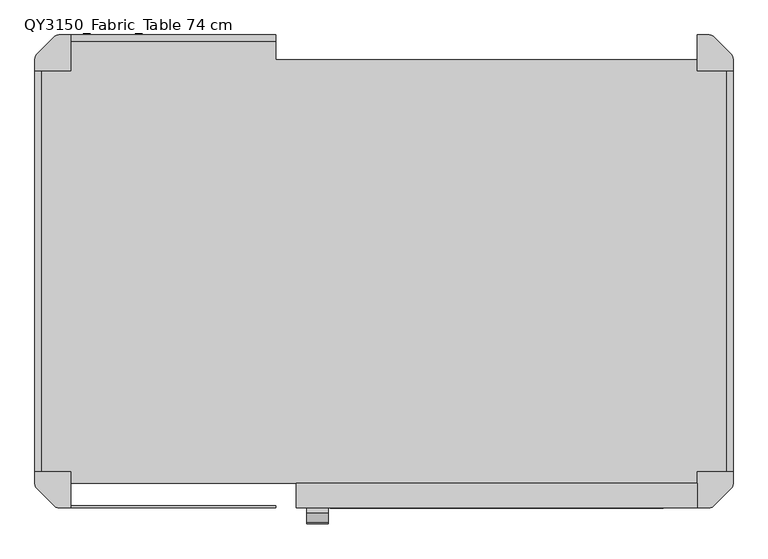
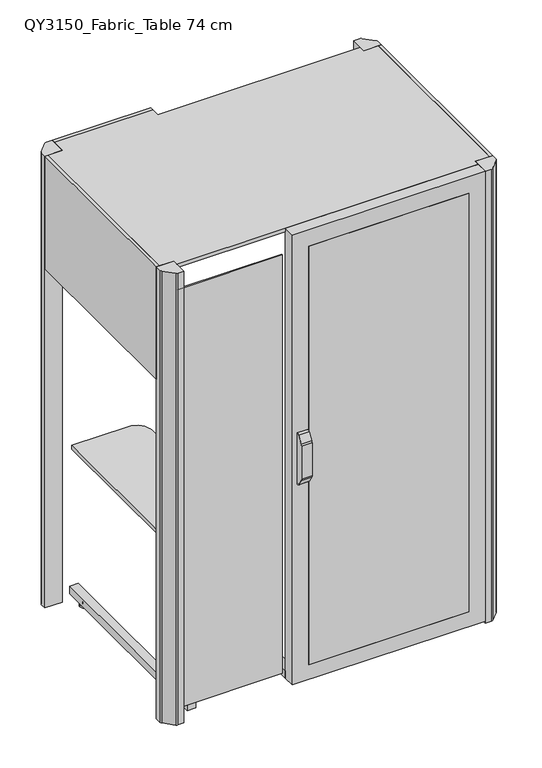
"""IFC4 building model written with IfcOpenShell, lengths in millimetres: furniture geometry, Qyos_150 : QY3150_Fabric_Table 74 cm."""

from ifc_helpers import new_model, si_unit, point, frame, frame_2d, origin, origin_with_axes, place, context, project, spatial, polyline, circle_curve, trimmed, segment, composite_curve, outline, extrude, source, transform, mapped, element, save
from ifc_brep_helpers import plane_surface, cylinder_surface, revolved_surface, advanced_brep


def qy3150_fabric_table_74_cm_6e834712(model_context):
    return source(origin(), model_context, "Body", "SolidModel", [
        extrude(outline(composite_curve([segment(polyline([(-701.0, -358.0), (-701.0, 358.0), (-441.0, 358.0)]), True, "CONTINUOUS"), segment(trimmed(circle_curve(frame_2d((-441.0, 288.0)), 70.0), [point((-441.0, 358.0))], [point((-371.0, 288.0))], False, "CARTESIAN"), True, "CONTINUOUS"), segment(polyline([(-371.0, 288.0), (-371.0, -288.0)]), True, "CONTINUOUS"), segment(trimmed(circle_curve(frame_2d((-441.0, -288.0)), 70.0), [point((-371.0, -288.0))], [point((-441.0, -358.0))], False, "CARTESIAN"), True, "CONTINUOUS"), segment(polyline([(-441.0, -358.0), (-701.0, -358.0)]), True, "CONTINUOUS")], self_intersect=False)), frame((0.0, 0.0, 800.0), z_axis=(0.0, 0.0, 1.0), x_axis=(1.0, 0.0, 0.0)), (0.0, 0.0, 1.0), 19.0),
        advanced_brep(
        [(-124.0102042, -525.6314016, 980.9779398), (-124.0102042, -525.6314016, 985.9647191), (-124.0102042, -537.9469969, 991.7354618), (-124.0102042, -555.0438473, 1019.0961419), (-124.0102042, -557.6320377, 1028.7554001), (-124.0102042, -557.6320377, 1173.7554001), (-124.0102042, -553.2020658, 1196.5456299), (-124.0102042, -536.4262787, 1221.4167571), (-124.0102042, -525.6314016, 1224.0702851), (-124.0102042, -525.6314016, 1230.9669096), (-124.0102042, -537.162848, 1226.3079029), (-124.0102042, -557.7819627, 1194.5572505), (-124.0102042, -560.5, 1186.1919919), (-124.0102042, -560.5, 1025.2), (-124.0102042, -557.5610872, 1017.1254034), (-124.0102042, -537.1968679, 985.7672556), (-171.9580619, -525.6314016, 1230.9669096), (-171.9580619, -525.6314016, 980.9779398), (-171.9580619, -537.1968679, 985.7672556), (-171.9580619, -557.5610872, 1017.1254034), (-171.9580619, -560.5, 1025.2), (-171.9580619, -560.5, 1186.1919919), (-171.9580619, -557.7819627, 1194.5572505), (-171.9580619, -537.162848, 1226.3079029), (-169.2887865, -525.6314016, 1224.0702851), (-169.2887865, -525.6314016, 985.9647191), (-169.2887865, -537.9469969, 991.7354618), (-169.2887865, -536.4262787, 1221.4167571), (-169.2887865, -553.2020658, 1196.5456299), (-169.2887865, -557.6320377, 1173.7554001), (-169.2887865, -557.6320377, 1028.7554001), (-169.2887865, -555.0438473, 1019.0961419)],
        [
            (0, 1),
            (1, 2, circle_curve(frame((-124.0102042, -525.4805644, 1002.3136249), z_axis=(-1.0, 0.0, 0.0), x_axis=(0.0, -1.0, 0.0)), 16.3496016)),
            (2, 3, circle_curve(frame((-124.0102042, 1120.4570487, 2047.0433119), z_axis=(-1.0, 0.0, 0.0), x_axis=(0.0, -1.0, 0.0)), 1965.7005461)),
            (3, 4, circle_curve(frame((-124.0102042, -540.0644692, 1028.286235), z_axis=(-1.0, 0.0, 0.0), x_axis=(0.0, -1.0, 0.0)), 17.5738323)),
            (4, 5),
            (5, 6, circle_curve(frame((-124.0102042, -496.7942676, 1173.7554001), z_axis=(-1.0, 0.0, 0.0), x_axis=(0.0, -1.0, 0.0)), 60.8377701)),
            (6, 7, circle_curve(frame((-124.0102042, -812.3576761, 1389.4415655), z_axis=(1.0, 0.0, 0.0), x_axis=(0.0, -1.0, 0.0)), 323.0641922)),
            (7, 8, circle_curve(frame((-124.0102042, -525.6314016, 1200.7860796), z_axis=(-1.0, 0.0, 0.0), x_axis=(0.0, -1.0, 0.0)), 23.2842055)),
            (8, 9),
            (9, 10, circle_curve(frame((-124.0102042, -527.4087289, 1218.7657801), z_axis=(1.0, 0.0, 0.0), x_axis=(0.0, -1.0, 0.0)), 12.3299009)),
            (10, 11, circle_curve(frame((-124.0102042, 71.0762231, 808.7424006), z_axis=(1.0, 0.0, 0.0), x_axis=(0.0, -1.0, 0.0)), 737.777552)),
            (11, 12, circle_curve(frame((-124.0102042, -541.7589098, 1184.7268438), z_axis=(1.0, 0.0, 0.0), x_axis=(0.0, -1.0, 0.0)), 18.7982744)),
            (12, 13),
            (13, 14, circle_curve(frame((-124.0102042, -513.525418, 1037.7252129), z_axis=(1.0, 0.0, 0.0), x_axis=(0.0, -1.0, 0.0)), 48.615762)),
            (14, 15, circle_curve(frame((-124.0102042, -160.5394908, 1252.6628295), z_axis=(1.0, 0.0, 0.0), x_axis=(0.0, -1.0, 0.0)), 461.6319174)),
            (15, 0, circle_curve(frame((-124.0102042, -527.6091735, 992.560998), z_axis=(1.0, 0.0, 0.0), x_axis=(0.0, -1.0, 0.0)), 11.7506945)),
            (16, 17),
            (17, 18, circle_curve(frame((-171.9580619, -527.6091735, 992.560998), z_axis=(-1.0, 0.0, 0.0), x_axis=(0.0, -1.0, 0.0)), 11.7506945)),
            (18, 19, circle_curve(frame((-171.9580619, -160.5394908, 1252.6628295), z_axis=(-1.0, 0.0, 0.0), x_axis=(0.0, -1.0, 0.0)), 461.6319174)),
            (19, 20, circle_curve(frame((-171.9580619, -513.525418, 1037.7252129), z_axis=(-1.0, 0.0, 0.0), x_axis=(0.0, -1.0, 0.0)), 48.615762)),
            (20, 21),
            (21, 22, circle_curve(frame((-171.9580619, -541.7589098, 1184.7268438), z_axis=(-1.0, 0.0, 0.0), x_axis=(0.0, -1.0, 0.0)), 18.7982744)),
            (22, 23, circle_curve(frame((-171.9580619, 71.0762231, 808.7424006), z_axis=(-1.0, 0.0, 0.0), x_axis=(0.0, -1.0, 0.0)), 737.777552)),
            (23, 16, circle_curve(frame((-171.9580619, -527.4087289, 1218.7657801), z_axis=(-1.0, 0.0, 0.0), x_axis=(0.0, -1.0, 0.0)), 12.3299009)),
            (16, 9),
            (8, 24),
            (24, 25),
            (25, 1),
            (0, 17),
            (15, 18),
            (14, 19),
            (13, 20),
            (12, 21),
            (11, 22),
            (10, 23),
            (26, 25, circle_curve(frame((-169.2887865, -525.4805644, 1002.3136249), z_axis=(1.0, 0.0, 0.0), x_axis=(0.0, -1.0, 0.0)), 16.3496016)),
            (24, 27, circle_curve(frame((-169.2887865, -525.6314016, 1200.7860796), z_axis=(1.0, 0.0, 0.0), x_axis=(0.0, -1.0, 0.0)), 23.2842055)),
            (27, 28, circle_curve(frame((-169.2887865, -812.3576761, 1389.4415655), z_axis=(-1.0, 0.0, 0.0), x_axis=(0.0, -1.0, 0.0)), 323.0641922)),
            (28, 29, circle_curve(frame((-169.2887865, -496.7942676, 1173.7554001), z_axis=(1.0, 0.0, 0.0), x_axis=(0.0, -1.0, 0.0)), 60.8377701)),
            (29, 30),
            (30, 31, circle_curve(frame((-169.2887865, -540.0644692, 1028.286235), z_axis=(1.0, 0.0, 0.0), x_axis=(0.0, -1.0, 0.0)), 17.5738323)),
            (31, 26, circle_curve(frame((-169.2887865, 1120.4570487, 2047.0433119), z_axis=(1.0, 0.0, 0.0), x_axis=(0.0, -1.0, 0.0)), 1965.7005461)),
            (26, 2),
            (31, 3),
            (30, 4),
            (29, 5),
            (28, 6),
            (27, 7),
        ],
        [
            plane_surface(frame((-124.0102042, -525.6314016, 980.9779398), z_axis=(1.0, 0.0, 0.0), x_axis=(0.0, 0.0, -1.0))),
            plane_surface(frame((-171.9580619, -525.6314016, 980.9779398), z_axis=(-1.0, 0.0, 0.0), x_axis=(0.0, 0.0, 1.0))),
            plane_surface(frame((-124.0102042, -525.6314016, 1230.9669096), z_axis=(0.0, 1.0, 0.0), x_axis=(-1.0, 0.0, 0.0))),
            cylinder_surface(frame((-171.9580619, -527.6091735, 992.560998), z_axis=(1.0, 0.0, 0.0), x_axis=(0.0, -1.0, 0.0)), 11.7506945),
            cylinder_surface(frame((-171.9580619, -160.5394908, 1252.6628295), z_axis=(1.0, 0.0, 0.0), x_axis=(0.0, -1.0, 0.0)), 461.6319174),
            cylinder_surface(frame((-171.9580619, -513.525418, 1037.7252129), z_axis=(1.0, 0.0, 0.0), x_axis=(0.0, -1.0, 0.0)), 48.615762),
            plane_surface(frame((-124.0102042, -560.5, 1025.2), z_axis=(0.0, -1.0, 0.0), x_axis=(-1.0, 0.0, 0.0))),
            cylinder_surface(frame((-171.9580619, -541.7589098, 1184.7268438), z_axis=(1.0, 0.0, 0.0), x_axis=(0.0, -1.0, 0.0)), 18.7982744),
            cylinder_surface(frame((-171.9580619, 71.0762231, 808.7424006), z_axis=(1.0, 0.0, 0.0), x_axis=(0.0, -1.0, 0.0)), 737.777552),
            cylinder_surface(frame((-171.9580619, -527.4087289, 1218.7657801), z_axis=(1.0, 0.0, 0.0), x_axis=(0.0, -1.0, 0.0)), 12.3299009),
            plane_surface(frame((-169.2887865, -511.7185794, 1224.0702851), z_axis=(1.0, 0.0, 0.0), x_axis=(0.0, 0.0, 1.0))),
            revolved_surface(polyline([(-124.0102042, -541.8301660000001, 1002.3136249), (-169.2887865, -541.8301660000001, 1002.3136249)]), (-169.2887865, -525.4805644, 1002.3136249), (1.0, 0.0, 0.0)),
            revolved_surface(polyline([(-124.0102042, -845.2434974, 2047.0433119), (-169.2887865, -845.2434974, 2047.0433119)]), (-169.2887865, 1120.4570487, 2047.0433119), (1.0, 0.0, 0.0)),
            revolved_surface(polyline([(-124.0102042, -557.6383015, 1028.286235), (-169.2887865, -557.6383015, 1028.286235)]), (-169.2887865, -540.0644692, 1028.286235), (1.0, 0.0, 0.0)),
            plane_surface(frame((-116.8041752, -557.6320377, 1028.7554001), z_axis=(0.0, 1.0, 0.0), x_axis=(-1.0, 0.0, 0.0))),
            revolved_surface(polyline([(-124.0102042, -557.6320377, 1173.7554001), (-169.2887865, -557.6320377, 1173.7554001)]), (-169.2887865, -496.7942676, 1173.7554001), (1.0, 0.0, 0.0)),
            cylinder_surface(frame((-169.2887865, -812.3576761, 1389.4415655), z_axis=(-1.0, 0.0, 0.0), x_axis=(0.0, -1.0, 0.0)), 323.0641922),
            revolved_surface(polyline([(-124.0102042, -548.9156071, 1200.7860796), (-169.2887865, -548.9156071, 1200.7860796)]), (-169.2887865, -525.6314016, 1200.7860796), (1.0, 0.0, 0.0)),
        ],
        [
            (0, [[1, 2, 3, 4, 5, 6, 7, 8, 9, 10, 11, 12, 13, 14, 15, 16]]),
            (1, [[17, 18, 19, 20, 21, 22, 23, 24]]),
            (2, [[25, -9, 26, 27, 28, -1, 29, -17]]),
            (3, [[30, -18, -29, -16]]),
            (4, [[31, -19, -30, -15]]),
            (5, [[32, -20, -31, -14]]),
            (6, [[33, -21, -32, -13]]),
            (7, [[34, -22, -33, -12]]),
            (8, [[35, -23, -34, -11]]),
            (9, [[-25, -24, -35, -10]]),
            (10, [[36, -27, 37, 38, 39, 40, 41, 42]]),
            (11, [[43, -2, -28, -36]]),
            (12, [[44, -3, -43, -42]]),
            (13, [[45, -4, -44, -41]]),
            (14, [[46, -5, -45, -40]]),
            (15, [[47, -6, -46, -39]]),
            (16, [[48, -7, -47, -38]]),
            (17, [[-26, -8, -48, -37]]),
        ],
    ),
        extrude(outline(composite_curve([segment(polyline([(1230.9669096, -127.0104804), (1230.9669096, -166.9737674)]), True, "CONTINUOUS"), segment(trimmed(circle_curve(frame_2d((1225.973762, -166.9737674)), 4.9931477), [point((1230.9669096, -166.9737674))], [point((1225.973762, -171.966915))], False, "CARTESIAN"), True, "CONTINUOUS"), segment(polyline([(1225.973762, -171.966915), (985.9710874, -171.966915)]), True, "CONTINUOUS"), segment(trimmed(circle_curve(frame_2d((985.9710874, -166.9737674)), 4.9931477), [point((985.9710874, -171.966915))], [point((980.9779398, -166.9737674))], False, "CARTESIAN"), True, "CONTINUOUS"), segment(polyline([(980.9779398, -166.9737674), (980.9779398, -127.008286)]), True, "CONTINUOUS"), segment(trimmed(circle_curve(frame_2d((983.9760215, -127.008286)), 2.9980817), [point((980.9779398, -127.008286))], [point((983.9760215, -124.0102042))], False, "CARTESIAN"), True, "CONTINUOUS"), segment(polyline([(983.9760215, -124.0102042), (985.9777208, -124.0102042)]), True, "CONTINUOUS"), segment(trimmed(circle_curve(frame_2d((985.9777208, -126.2607973)), 2.2505931), [point((985.9777208, -124.0102042))], [point((988.1941223, -125.8699859))], False, "CARTESIAN"), True, "CONTINUOUS"), segment(trimmed(circle_curve(frame_2d((1002.686839, -125.065358)), 14.5150358), [point((988.1941223, -125.8699859))], [point((999.6402401, -139.2570632))], True, "CARTESIAN"), True, "CONTINUOUS"), segment(trimmed(circle_curve(frame_2d((999.3564071, -147.27634)), 8.0242982), [point((999.6402401, -139.2570632))], [point((1007.3803501, -147.3518321))], False, "CARTESIAN"), True, "CONTINUOUS"), segment(trimmed(circle_curve(frame_2d((984.8527266, -150.8883916)), 22.803532), [point((1007.3803501, -147.3518321))], [point((1007.3098217, -154.8481834))], False, "CARTESIAN"), True, "CONTINUOUS"), segment(trimmed(circle_curve(frame_2d((1018.7344643, -156.8626561)), 11.600886), [point((1007.3098217, -154.8481834))], [point((1018.7344643, -168.4635421))], True, "CARTESIAN"), True, "CONTINUOUS"), segment(polyline([(1018.7344643, -168.4635421), (1193.2103851, -168.4635421)]), True, "CONTINUOUS"), segment(trimmed(circle_curve(frame_2d((1193.2103851, -156.4965825)), 11.9669596), [point((1193.2103851, -168.4635421))], [point((1205.1773447, -156.4965825))], True, "CARTESIAN"), True, "CONTINUOUS"), segment(polyline([(1205.1773447, -156.4965825), (1205.1773447, -147.9646776)]), True, "CONTINUOUS"), segment(trimmed(circle_curve(frame_2d((1213.8757406, -147.9646776)), 8.6983958), [point((1205.1773447, -147.9646776))], [point((1212.36528, -139.3984299))], False, "CARTESIAN"), True, "CONTINUOUS"), segment(trimmed(circle_curve(frame_2d((1209.9037954, -125.4386571)), 14.1751248), [point((1212.36528, -139.3984299))], [point((1224.0702851, -125.9333618))], True, "CARTESIAN"), True, "CONTINUOUS"), segment(trimmed(circle_curve(frame_2d((1225.9934427, -125.9333618)), 1.9231576), [point((1224.0702851, -125.9333618))], [point((1225.9934427, -124.0102042))], False, "CARTESIAN"), True, "CONTINUOUS"), segment(polyline([(1225.9934427, -124.0102042), (1227.9666334, -124.0102042)]), True, "CONTINUOUS"), segment(trimmed(circle_curve(frame_2d((1227.9666334, -127.0104804)), 3.0002762), [point((1227.9666334, -124.0102042))], [point((1230.9669096, -127.0104804))], False, "CARTESIAN"), True, "CONTINUOUS")], self_intersect=False)), frame((0.0, -525.6314016, 0.0), z_axis=(0.0, 1.0, 0.0), x_axis=(0.0, 0.0, 1.0)), (0.0, 0.0, 1.0), 0.6314016),
        advanced_brep(
        [(-124.0102042, -469.3642803, 980.9779398), (-124.0102042, -457.798814, 985.7672556), (-124.0102042, -437.4345947, 1017.1254034), (-124.0102042, -434.4956819, 1025.2), (-124.0102042, -434.4956819, 1186.1919919), (-124.0102042, -437.2137192, 1194.5572505), (-124.0102042, -457.8328339, 1226.3079029), (-124.0102042, -469.3642803, 1230.9669096), (-124.0102042, -469.3642803, 1224.0702851), (-124.0102042, -458.5694032, 1221.4167571), (-124.0102042, -441.7936161, 1196.5456299), (-124.0102042, -437.3636441, 1173.7554001), (-124.0102042, -437.3636441, 1028.7554001), (-124.0102042, -439.9518346, 1019.0961419), (-124.0102042, -457.048685, 991.7354618), (-124.0102042, -469.3642803, 985.9647191), (-171.9580619, -469.3642803, 1230.9669096), (-171.9580619, -457.8328339, 1226.3079029), (-171.9580619, -437.2137192, 1194.5572505), (-171.9580619, -434.4956819, 1186.1919919), (-171.9580619, -434.4956819, 1025.2), (-171.9580619, -437.4345947, 1017.1254034), (-171.9580619, -457.798814, 985.7672556), (-171.9580619, -469.3642803, 980.9779398), (-169.2887865, -469.3642803, 985.9647191), (-169.2887865, -469.3642803, 1224.0702851), (-169.2887865, -457.048685, 991.7354618), (-169.2887865, -439.9518346, 1019.0961419), (-169.2887865, -437.3636441, 1028.7554001), (-169.2887865, -437.3636441, 1173.7554001), (-169.2887865, -441.7936161, 1196.5456299), (-169.2887865, -458.5694032, 1221.4167571)],
        [
            (0, 1, circle_curve(frame((-124.0102042, -467.3865084, 992.560998), z_axis=(1.0, 0.0, 0.0), x_axis=(0.0, 1.0, 0.0)), 11.7506945)),
            (1, 2, circle_curve(frame((-124.0102042, -834.4561911, 1252.6628295), z_axis=(1.0, 0.0, 0.0), x_axis=(0.0, 1.0, 0.0)), 461.6319174)),
            (2, 3, circle_curve(frame((-124.0102042, -481.4702639, 1037.7252129), z_axis=(1.0, 0.0, 0.0), x_axis=(0.0, 1.0, 0.0)), 48.615762)),
            (3, 4),
            (4, 5, circle_curve(frame((-124.0102042, -453.236772, 1184.7268438), z_axis=(1.0, 0.0, 0.0), x_axis=(0.0, 1.0, 0.0)), 18.7982744)),
            (5, 6, circle_curve(frame((-124.0102042, -1066.071905, 808.7424006), z_axis=(1.0, 0.0, 0.0), x_axis=(0.0, 1.0, 0.0)), 737.777552)),
            (6, 7, circle_curve(frame((-124.0102042, -467.586953, 1218.7657801), z_axis=(1.0, 0.0, 0.0), x_axis=(0.0, 1.0, 0.0)), 12.3299009)),
            (7, 8),
            (8, 9, circle_curve(frame((-124.0102042, -469.3642803, 1200.7860796), z_axis=(-1.0, 0.0, 0.0), x_axis=(0.0, 1.0, 0.0)), 23.2842055)),
            (9, 10, circle_curve(frame((-124.0102042, -182.6380058, 1389.4415655), z_axis=(1.0, 0.0, 0.0), x_axis=(0.0, 1.0, 0.0)), 323.0641922)),
            (10, 11, circle_curve(frame((-124.0102042, -498.2014142, 1173.7554001), z_axis=(-1.0, 0.0, 0.0), x_axis=(0.0, 1.0, 0.0)), 60.8377701)),
            (11, 12),
            (12, 13, circle_curve(frame((-124.0102042, -454.9312127, 1028.286235), z_axis=(-1.0, 0.0, 0.0), x_axis=(0.0, 1.0, 0.0)), 17.5738323)),
            (13, 14, circle_curve(frame((-124.0102042, -2115.4527306, 2047.0433119), z_axis=(-1.0, 0.0, 0.0), x_axis=(0.0, 1.0, 0.0)), 1965.7005461)),
            (14, 15, circle_curve(frame((-124.0102042, -469.5151175, 1002.3136249), z_axis=(-1.0, 0.0, 0.0), x_axis=(0.0, 1.0, 0.0)), 16.3496016)),
            (15, 0),
            (16, 17, circle_curve(frame((-171.9580619, -467.586953, 1218.7657801), z_axis=(-1.0, 0.0, 0.0), x_axis=(0.0, 1.0, 0.0)), 12.3299009)),
            (17, 18, circle_curve(frame((-171.9580619, -1066.071905, 808.7424006), z_axis=(-1.0, 0.0, 0.0), x_axis=(0.0, 1.0, 0.0)), 737.777552)),
            (18, 19, circle_curve(frame((-171.9580619, -453.236772, 1184.7268438), z_axis=(-1.0, 0.0, 0.0), x_axis=(0.0, 1.0, 0.0)), 18.7982744)),
            (19, 20),
            (20, 21, circle_curve(frame((-171.9580619, -481.4702639, 1037.7252129), z_axis=(-1.0, 0.0, 0.0), x_axis=(0.0, 1.0, 0.0)), 48.615762)),
            (21, 22, circle_curve(frame((-171.9580619, -834.4561911, 1252.6628295), z_axis=(-1.0, 0.0, 0.0), x_axis=(0.0, 1.0, 0.0)), 461.6319174)),
            (22, 23, circle_curve(frame((-171.9580619, -467.3865084, 992.560998), z_axis=(-1.0, 0.0, 0.0), x_axis=(0.0, 1.0, 0.0)), 11.7506945)),
            (23, 16),
            (23, 0),
            (15, 24),
            (24, 25),
            (25, 8),
            (7, 16),
            (22, 1),
            (21, 2),
            (20, 3),
            (19, 4),
            (18, 5),
            (17, 6),
            (26, 27, circle_curve(frame((-169.2887865, -2115.4527306, 2047.0433119), z_axis=(1.0, 0.0, 0.0), x_axis=(0.0, 1.0, 0.0)), 1965.7005461)),
            (27, 28, circle_curve(frame((-169.2887865, -454.9312127, 1028.286235), z_axis=(1.0, 0.0, 0.0), x_axis=(0.0, 1.0, 0.0)), 17.5738323)),
            (28, 29),
            (29, 30, circle_curve(frame((-169.2887865, -498.2014142, 1173.7554001), z_axis=(1.0, 0.0, 0.0), x_axis=(0.0, 1.0, 0.0)), 60.8377701)),
            (30, 31, circle_curve(frame((-169.2887865, -182.6380058, 1389.4415655), z_axis=(-1.0, 0.0, 0.0), x_axis=(0.0, 1.0, 0.0)), 323.0641922)),
            (31, 25, circle_curve(frame((-169.2887865, -469.3642803, 1200.7860796), z_axis=(1.0, 0.0, 0.0), x_axis=(0.0, 1.0, 0.0)), 23.2842055)),
            (24, 26, circle_curve(frame((-169.2887865, -469.5151175, 1002.3136249), z_axis=(1.0, 0.0, 0.0), x_axis=(0.0, 1.0, 0.0)), 16.3496016)),
            (14, 26),
            (13, 27),
            (12, 28),
            (11, 29),
            (10, 30),
            (9, 31),
        ],
        [
            plane_surface(frame((-124.0102042, -469.3642803, 980.9779398), z_axis=(1.0, 0.0, 0.0), x_axis=(0.0, 0.0, -1.0))),
            plane_surface(frame((-171.9580619, -469.3642803, 980.9779398), z_axis=(-1.0, 0.0, 0.0), x_axis=(0.0, 0.0, 1.0))),
            plane_surface(frame((-124.0102042, -469.3642803, 1230.9669096), z_axis=(0.0, -1.0, 0.0), x_axis=(-1.0, 0.0, 0.0))),
            cylinder_surface(frame((-171.9580619, -467.3865084, 992.560998), z_axis=(1.0, 0.0, 0.0), x_axis=(0.0, 1.0, 0.0)), 11.7506945),
            cylinder_surface(frame((-171.9580619, -834.4561911, 1252.6628295), z_axis=(1.0, 0.0, 0.0), x_axis=(0.0, 1.0, 0.0)), 461.6319174),
            cylinder_surface(frame((-171.9580619, -481.4702639, 1037.7252129), z_axis=(1.0, 0.0, 0.0), x_axis=(0.0, 1.0, 0.0)), 48.615762),
            plane_surface(frame((-124.0102042, -434.4956819, 1025.2), z_axis=(0.0, 1.0, 0.0), x_axis=(-1.0, 0.0, 0.0))),
            cylinder_surface(frame((-171.9580619, -453.236772, 1184.7268438), z_axis=(1.0, 0.0, 0.0), x_axis=(0.0, 1.0, 0.0)), 18.7982744),
            cylinder_surface(frame((-171.9580619, -1066.071905, 808.7424006), z_axis=(1.0, 0.0, 0.0), x_axis=(0.0, 1.0, 0.0)), 737.777552),
            cylinder_surface(frame((-171.9580619, -467.586953, 1218.7657801), z_axis=(1.0, 0.0, 0.0), x_axis=(0.0, 1.0, 0.0)), 12.3299009),
            plane_surface(frame((-169.2887865, -483.2771024, 1224.0702851), z_axis=(1.0, 0.0, 0.0), x_axis=(0.0, 0.0, 1.0))),
            revolved_surface(polyline([(-124.0102042, -453.16551589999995, 1002.3136249), (-169.2887865, -453.16551589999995, 1002.3136249)]), (-169.2887865, -469.5151175, 1002.3136249), (1.0, 0.0, 0.0)),
            revolved_surface(polyline([(-124.0102042, -149.75218449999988, 2047.0433119), (-169.2887865, -149.75218449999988, 2047.0433119)]), (-169.2887865, -2115.4527306, 2047.0433119), (1.0, 0.0, 0.0)),
            revolved_surface(polyline([(-124.0102042, -437.3573804, 1028.286235), (-169.2887865, -437.3573804, 1028.286235)]), (-169.2887865, -454.9312127, 1028.286235), (1.0, 0.0, 0.0)),
            plane_surface(frame((-116.8041752, -437.3636441, 1028.7554001), z_axis=(0.0, -1.0, 0.0), x_axis=(-1.0, 0.0, 0.0))),
            revolved_surface(polyline([(-124.0102042, -437.3636441, 1173.7554001), (-169.2887865, -437.3636441, 1173.7554001)]), (-169.2887865, -498.2014142, 1173.7554001), (1.0, 0.0, 0.0)),
            cylinder_surface(frame((-169.2887865, -182.6380058, 1389.4415655), z_axis=(-1.0, 0.0, 0.0), x_axis=(0.0, 1.0, 0.0)), 323.0641922),
            revolved_surface(polyline([(-124.0102042, -446.08007480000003, 1200.7860796), (-169.2887865, -446.08007480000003, 1200.7860796)]), (-169.2887865, -469.3642803, 1200.7860796), (1.0, 0.0, 0.0)),
        ],
        [
            (0, [[1, 2, 3, 4, 5, 6, 7, 8, 9, 10, 11, 12, 13, 14, 15, 16]]),
            (1, [[17, 18, 19, 20, 21, 22, 23, 24]]),
            (2, [[-24, 25, -16, 26, 27, 28, -8, 29]]),
            (3, [[-1, -25, -23, 30]]),
            (4, [[-2, -30, -22, 31]]),
            (5, [[-3, -31, -21, 32]]),
            (6, [[-4, -32, -20, 33]]),
            (7, [[-5, -33, -19, 34]]),
            (8, [[-6, -34, -18, 35]]),
            (9, [[-7, -35, -17, -29]]),
            (10, [[36, 37, 38, 39, 40, 41, -27, 42]]),
            (11, [[-42, -26, -15, 43]]),
            (12, [[-36, -43, -14, 44]]),
            (13, [[-37, -44, -13, 45]]),
            (14, [[-38, -45, -12, 46]]),
            (15, [[-39, -46, -11, 47]]),
            (16, [[-40, -47, -10, 48]]),
            (17, [[-41, -48, -9, -28]]),
        ],
    ),
        extrude(outline(composite_curve([segment(polyline([(1230.9669096, -127.0104804), (1230.9669096, -166.9737674)]), True, "CONTINUOUS"), segment(trimmed(circle_curve(frame_2d((1225.973762, -166.9737674)), 4.9931477), [point((1230.9669096, -166.9737674))], [point((1225.973762, -171.966915))], False, "CARTESIAN"), True, "CONTINUOUS"), segment(polyline([(1225.973762, -171.966915), (985.9710874, -171.966915)]), True, "CONTINUOUS"), segment(trimmed(circle_curve(frame_2d((985.9710874, -166.9737674)), 4.9931477), [point((985.9710874, -171.966915))], [point((980.9779398, -166.9737674))], False, "CARTESIAN"), True, "CONTINUOUS"), segment(polyline([(980.9779398, -166.9737674), (980.9779398, -127.008286)]), True, "CONTINUOUS"), segment(trimmed(circle_curve(frame_2d((983.9760215, -127.008286)), 2.9980817), [point((980.9779398, -127.008286))], [point((983.9760215, -124.0102042))], False, "CARTESIAN"), True, "CONTINUOUS"), segment(polyline([(983.9760215, -124.0102042), (985.9777208, -124.0102042)]), True, "CONTINUOUS"), segment(trimmed(circle_curve(frame_2d((985.9777208, -126.2607973)), 2.2505931), [point((985.9777208, -124.0102042))], [point((988.1941223, -125.8699859))], False, "CARTESIAN"), True, "CONTINUOUS"), segment(trimmed(circle_curve(frame_2d((1002.686839, -125.065358)), 14.5150358), [point((988.1941223, -125.8699859))], [point((999.6402401, -139.2570632))], True, "CARTESIAN"), True, "CONTINUOUS"), segment(trimmed(circle_curve(frame_2d((999.3564071, -147.27634)), 8.0242982), [point((999.6402401, -139.2570632))], [point((1007.3803501, -147.3518321))], False, "CARTESIAN"), True, "CONTINUOUS"), segment(trimmed(circle_curve(frame_2d((984.8527266, -150.8883916)), 22.803532), [point((1007.3803501, -147.3518321))], [point((1007.3098217, -154.8481834))], False, "CARTESIAN"), True, "CONTINUOUS"), segment(trimmed(circle_curve(frame_2d((1018.7344643, -156.8626561)), 11.600886), [point((1007.3098217, -154.8481834))], [point((1018.7344643, -168.4635421))], True, "CARTESIAN"), True, "CONTINUOUS"), segment(polyline([(1018.7344643, -168.4635421), (1193.2103851, -168.4635421)]), True, "CONTINUOUS"), segment(trimmed(circle_curve(frame_2d((1193.2103851, -156.4965825)), 11.9669596), [point((1193.2103851, -168.4635421))], [point((1205.1773447, -156.4965825))], True, "CARTESIAN"), True, "CONTINUOUS"), segment(polyline([(1205.1773447, -156.4965825), (1205.1773447, -147.9646776)]), True, "CONTINUOUS"), segment(trimmed(circle_curve(frame_2d((1213.8757406, -147.9646776)), 8.6983958), [point((1205.1773447, -147.9646776))], [point((1212.36528, -139.3984299))], False, "CARTESIAN"), True, "CONTINUOUS"), segment(trimmed(circle_curve(frame_2d((1209.9037954, -125.4386571)), 14.1751248), [point((1212.36528, -139.3984299))], [point((1224.0702851, -125.9333618))], True, "CARTESIAN"), True, "CONTINUOUS"), segment(trimmed(circle_curve(frame_2d((1225.9934427, -125.9333618)), 1.9231576), [point((1224.0702851, -125.9333618))], [point((1225.9934427, -124.0102042))], False, "CARTESIAN"), True, "CONTINUOUS"), segment(polyline([(1225.9934427, -124.0102042), (1227.9666334, -124.0102042)]), True, "CONTINUOUS"), segment(trimmed(circle_curve(frame_2d((1227.9666334, -127.0104804)), 3.0002762), [point((1227.9666334, -124.0102042))], [point((1230.9669096, -127.0104804))], False, "CARTESIAN"), True, "CONTINUOUS")], self_intersect=False)), frame((0.0, -469.9956819, 0.0), z_axis=(0.0, 1.0, 0.0), x_axis=(0.0, 0.0, 1.0)), (0.0, 0.0, 1.0), 0.6314016),
        extrude(outline(polyline([(619.5749028, -525.0), (-119.4250972, -525.0), (-119.4250972, -520.0), (619.5749028, -520.0), (619.5749028, -525.0)])), frame((0.0, 0.0, 82.0), z_axis=(0.0, 0.0, 1.0), x_axis=(1.0, 0.0, 0.0)), (0.0, 0.0, 1.0), 2040.1),
        extrude(outline(polyline([(10.0, -194.9250972), (10.0, 695.0749028), (2202.1, 695.0749028), (2202.1, -194.9250972), (10.0, -194.9250972)]), holes=[polyline([(82.0, 619.5749028), (82.0, -119.4250972), (2122.1, -119.4250972), (2122.1, 619.5749028), (82.0, 619.5749028)])]), frame((0.0, -525.0, 0.0), z_axis=(0.0, 1.0, 0.0), x_axis=(0.0, 0.0, 1.0)), (0.0, 0.0, 1.0), 55.0043181),
        advanced_brep(
        [(603.8585356, -382.0, 0.0), (650.1414644, -382.0, 0.0), (627.0, -382.0, 0.0), (603.8585356, -382.0, 7.0), (650.1414644, -382.0, 7.0), (617.3615446, -382.0, 7.0), (636.6384554, -382.0, 7.0), (617.3615446, -382.0, 17.0), (636.6384554, -382.0, 17.0), (627.0, -382.0, 17.0)],
        [
            (0, 1, circle_curve(frame((627.0, -382.0, 0.0), z_axis=(0.0, 0.0, -1.0), x_axis=(1.0, 0.0, 0.0)), 23.1414644)),
            (1, 2),
            (2, 0),
            (1, 0, circle_curve(frame((627.0, -382.0, 0.0), z_axis=(0.0, 0.0, -1.0), x_axis=(1.0, 0.0, 0.0)), 23.1414644)),
            (3, 4, circle_curve(frame((627.0, -382.0, 7.0), z_axis=(0.0, 0.0, -1.0), x_axis=(1.0, 0.0, 0.0)), 23.1414644)),
            (4, 1),
            (0, 3),
            (4, 3, circle_curve(frame((627.0, -382.0, 7.0), z_axis=(0.0, 0.0, -1.0), x_axis=(1.0, 0.0, 0.0)), 23.1414644)),
            (5, 6, circle_curve(frame((627.0, -382.0, 7.0), z_axis=(0.0, 0.0, -1.0), x_axis=(1.0, 0.0, 0.0)), 9.6384554)),
            (6, 4),
            (3, 5),
            (6, 5, circle_curve(frame((627.0, -382.0, 7.0), z_axis=(0.0, 0.0, -1.0), x_axis=(1.0, 0.0, 0.0)), 9.6384554)),
            (7, 8, circle_curve(frame((627.0, -382.0, 17.0), z_axis=(0.0, 0.0, -1.0), x_axis=(1.0, 0.0, 0.0)), 9.6384554)),
            (8, 6),
            (5, 7),
            (8, 7, circle_curve(frame((627.0, -382.0, 17.0), z_axis=(0.0, 0.0, -1.0), x_axis=(1.0, 0.0, 0.0)), 9.6384554)),
            (9, 8),
            (7, 9),
        ],
        [
            plane_surface(frame((627.0, -382.0, 0.0), z_axis=(0.0, 0.0, -1.0), x_axis=(1.0, 0.0, 0.0))),
            cylinder_surface(frame((627.0, -382.0, 1997.4144888), z_axis=(0.0, 0.0, 1.0), x_axis=(1.0, 0.0, 0.0)), 23.1414644),
            plane_surface(frame((627.0, -382.0, 7.0), z_axis=(0.0, 0.0, 1.0), x_axis=(1.0, 0.0, 0.0))),
            cylinder_surface(frame((627.0, -382.0, 1997.4144888), z_axis=(0.0, 0.0, 1.0), x_axis=(1.0, 0.0, 0.0)), 9.6384554),
            plane_surface(frame((627.0, -382.0, 17.0), z_axis=(0.0, 0.0, 1.0), x_axis=(1.0, 0.0, 0.0))),
        ],
        [
            (0, [[1, 2, 3]]),
            (0, [[4, -3, -2]]),
            (1, [[5, 6, -1, 7]]),
            (1, [[8, -7, -4, -6]]),
            (2, [[9, 10, -5, 11]]),
            (2, [[12, -11, -8, -10]]),
            (3, [[13, 14, -9, 15]]),
            (3, [[16, -15, -12, -14]]),
            (4, [[17, -13, 18]]),
            (4, [[-18, -16, -17]]),
        ],
    ),
        extrude(outline(composite_curve([segment(trimmed(circle_curve(frame_2d((627.0, -382.0)), 23.1414644), [point((603.8585356, -382.0))], [point((650.1414644, -382.0))], False, "CARTESIAN"), True, "CONTINUOUS"), segment(trimmed(circle_curve(frame_2d((627.0, -382.0)), 23.1414644), [point((650.1414644, -382.0))], [point((603.8585356, -382.0))], False, "CARTESIAN"), True, "CONTINUOUS")], self_intersect=False)), origin_with_axes(), (0.0, 0.0, 1.0), 7.0),
        advanced_brep(
        [(-198.1414644, -382.0, 0.0), (-151.8585356, -382.0, 0.0), (-175.0, -382.0, 0.0), (-198.1414644, -382.0, 7.0), (-151.8585356, -382.0, 7.0), (-184.6384554, -382.0, 7.0), (-165.3615446, -382.0, 7.0), (-184.6384554, -382.0, 17.0), (-165.3615446, -382.0, 17.0), (-175.0, -382.0, 17.0)],
        [
            (0, 1, circle_curve(frame((-175.0, -382.0, 0.0), z_axis=(0.0, 0.0, -1.0), x_axis=(1.0, 0.0, 0.0)), 23.1414644)),
            (1, 2),
            (2, 0),
            (1, 0, circle_curve(frame((-175.0, -382.0, 0.0), z_axis=(0.0, 0.0, -1.0), x_axis=(1.0, 0.0, 0.0)), 23.1414644)),
            (3, 4, circle_curve(frame((-175.0, -382.0, 7.0), z_axis=(0.0, 0.0, -1.0), x_axis=(1.0, 0.0, 0.0)), 23.1414644)),
            (4, 1),
            (0, 3),
            (4, 3, circle_curve(frame((-175.0, -382.0, 7.0), z_axis=(0.0, 0.0, -1.0), x_axis=(1.0, 0.0, 0.0)), 23.1414644)),
            (5, 6, circle_curve(frame((-175.0, -382.0, 7.0), z_axis=(0.0, 0.0, -1.0), x_axis=(1.0, 0.0, 0.0)), 9.6384554)),
            (6, 4),
            (3, 5),
            (6, 5, circle_curve(frame((-175.0, -382.0, 7.0), z_axis=(0.0, 0.0, -1.0), x_axis=(1.0, 0.0, 0.0)), 9.6384554)),
            (7, 8, circle_curve(frame((-175.0, -382.0, 17.0), z_axis=(0.0, 0.0, -1.0), x_axis=(1.0, 0.0, 0.0)), 9.6384554)),
            (8, 6),
            (5, 7),
            (8, 7, circle_curve(frame((-175.0, -382.0, 17.0), z_axis=(0.0, 0.0, -1.0), x_axis=(1.0, 0.0, 0.0)), 9.6384554)),
            (9, 8),
            (7, 9),
        ],
        [
            plane_surface(frame((-175.0, -382.0, 0.0), z_axis=(0.0, 0.0, -1.0), x_axis=(1.0, 0.0, 0.0))),
            cylinder_surface(frame((-175.0, -382.0, 1997.4144888), z_axis=(0.0, 0.0, 1.0), x_axis=(1.0, 0.0, 0.0)), 23.1414644),
            plane_surface(frame((-175.0, -382.0, 7.0), z_axis=(0.0, 0.0, 1.0), x_axis=(1.0, 0.0, 0.0))),
            cylinder_surface(frame((-175.0, -382.0, 1997.4144888), z_axis=(0.0, 0.0, 1.0), x_axis=(1.0, 0.0, 0.0)), 9.6384554),
            plane_surface(frame((-175.0, -382.0, 17.0), z_axis=(0.0, 0.0, 1.0), x_axis=(1.0, 0.0, 0.0))),
        ],
        [
            (0, [[1, 2, 3]]),
            (0, [[4, -3, -2]]),
            (1, [[5, 6, -1, 7]]),
            (1, [[8, -7, -4, -6]]),
            (2, [[9, 10, -5, 11]]),
            (2, [[12, -11, -8, -10]]),
            (3, [[13, 14, -9, 15]]),
            (3, [[16, -15, -12, -14]]),
            (4, [[17, -13, 18]]),
            (4, [[-18, -16, -17]]),
        ],
    ),
        extrude(outline(composite_curve([segment(trimmed(circle_curve(frame_2d((-175.0, -382.0)), 23.1414644), [point((-198.1414644, -382.0))], [point((-151.8585356, -382.0))], False, "CARTESIAN"), True, "CONTINUOUS"), segment(trimmed(circle_curve(frame_2d((-175.0, -382.0)), 23.1414644), [point((-151.8585356, -382.0))], [point((-198.1414644, -382.0))], False, "CARTESIAN"), True, "CONTINUOUS")], self_intersect=False)), origin_with_axes(), (0.0, 0.0, 1.0), 7.0),
        advanced_brep(
        [(-650.1414644, -382.0, 0.0), (-603.8585356, -382.0, 0.0), (-627.0, -382.0, 0.0), (-650.1414644, -382.0, 7.0), (-603.8585356, -382.0, 7.0), (-636.6384554, -382.0, 7.0), (-617.3615446, -382.0, 7.0), (-636.6384554, -382.0, 17.0), (-617.3615446, -382.0, 17.0), (-627.0, -382.0, 17.0)],
        [
            (0, 1, circle_curve(frame((-627.0, -382.0, 0.0), z_axis=(0.0, 0.0, -1.0), x_axis=(1.0, 0.0, 0.0)), 23.1414644)),
            (1, 2),
            (2, 0),
            (1, 0, circle_curve(frame((-627.0, -382.0, 0.0), z_axis=(0.0, 0.0, -1.0), x_axis=(1.0, 0.0, 0.0)), 23.1414644)),
            (3, 4, circle_curve(frame((-627.0, -382.0, 7.0), z_axis=(0.0, 0.0, -1.0), x_axis=(1.0, 0.0, 0.0)), 23.1414644)),
            (4, 1),
            (0, 3),
            (4, 3, circle_curve(frame((-627.0, -382.0, 7.0), z_axis=(0.0, 0.0, -1.0), x_axis=(1.0, 0.0, 0.0)), 23.1414644)),
            (5, 6, circle_curve(frame((-627.0, -382.0, 7.0), z_axis=(0.0, 0.0, -1.0), x_axis=(1.0, 0.0, 0.0)), 9.6384554)),
            (6, 4),
            (3, 5),
            (6, 5, circle_curve(frame((-627.0, -382.0, 7.0), z_axis=(0.0, 0.0, -1.0), x_axis=(1.0, 0.0, 0.0)), 9.6384554)),
            (7, 8, circle_curve(frame((-627.0, -382.0, 17.0), z_axis=(0.0, 0.0, -1.0), x_axis=(1.0, 0.0, 0.0)), 9.6384554)),
            (8, 6),
            (5, 7),
            (8, 7, circle_curve(frame((-627.0, -382.0, 17.0), z_axis=(0.0, 0.0, -1.0), x_axis=(1.0, 0.0, 0.0)), 9.6384554)),
            (9, 8),
            (7, 9),
        ],
        [
            plane_surface(frame((-627.0, -382.0, 0.0), z_axis=(0.0, 0.0, -1.0), x_axis=(1.0, 0.0, 0.0))),
            cylinder_surface(frame((-627.0, -382.0, 1997.4144888), z_axis=(0.0, 0.0, 1.0), x_axis=(1.0, 0.0, 0.0)), 23.1414644),
            plane_surface(frame((-627.0, -382.0, 7.0), z_axis=(0.0, 0.0, 1.0), x_axis=(1.0, 0.0, 0.0))),
            cylinder_surface(frame((-627.0, -382.0, 1997.4144888), z_axis=(0.0, 0.0, 1.0), x_axis=(1.0, 0.0, 0.0)), 9.6384554),
            plane_surface(frame((-627.0, -382.0, 17.0), z_axis=(0.0, 0.0, 1.0), x_axis=(1.0, 0.0, 0.0))),
        ],
        [
            (0, [[1, 2, 3]]),
            (0, [[4, -3, -2]]),
            (1, [[5, 6, -1, 7]]),
            (1, [[8, -7, -4, -6]]),
            (2, [[9, 10, -5, 11]]),
            (2, [[12, -11, -8, -10]]),
            (3, [[13, 14, -9, 15]]),
            (3, [[16, -15, -12, -14]]),
            (4, [[17, -13, 18]]),
            (4, [[-18, -16, -17]]),
        ],
    ),
        extrude(outline(composite_curve([segment(trimmed(circle_curve(frame_2d((-627.0, -382.0)), 23.1414644), [point((-650.1414644, -382.0))], [point((-603.8585356, -382.0))], False, "CARTESIAN"), True, "CONTINUOUS"), segment(trimmed(circle_curve(frame_2d((-627.0, -382.0)), 23.1414644), [point((-603.8585356, -382.0))], [point((-650.1414644, -382.0))], False, "CARTESIAN"), True, "CONTINUOUS")], self_intersect=False)), origin_with_axes(), (0.0, 0.0, 1.0), 7.0),
        advanced_brep(
        [(-650.1414644, 382.0, 0.0), (-603.8585356, 382.0, 0.0), (-627.0, 382.0, 0.0), (-650.1414644, 382.0, 7.0), (-603.8585356, 382.0, 7.0), (-636.6384554, 382.0, 7.0), (-617.3615446, 382.0, 7.0), (-636.6384554, 382.0, 17.0), (-617.3615446, 382.0, 17.0), (-627.0, 382.0, 17.0)],
        [
            (0, 1, circle_curve(frame((-627.0, 382.0, 0.0), z_axis=(0.0, 0.0, -1.0), x_axis=(1.0, 0.0, 0.0)), 23.1414644)),
            (1, 2),
            (2, 0),
            (1, 0, circle_curve(frame((-627.0, 382.0, 0.0), z_axis=(0.0, 0.0, -1.0), x_axis=(1.0, 0.0, 0.0)), 23.1414644)),
            (3, 4, circle_curve(frame((-627.0, 382.0, 7.0), z_axis=(0.0, 0.0, -1.0), x_axis=(1.0, 0.0, 0.0)), 23.1414644)),
            (4, 1),
            (0, 3),
            (4, 3, circle_curve(frame((-627.0, 382.0, 7.0), z_axis=(0.0, 0.0, -1.0), x_axis=(1.0, 0.0, 0.0)), 23.1414644)),
            (5, 6, circle_curve(frame((-627.0, 382.0, 7.0), z_axis=(0.0, 0.0, -1.0), x_axis=(1.0, 0.0, 0.0)), 9.6384554)),
            (6, 4),
            (3, 5),
            (6, 5, circle_curve(frame((-627.0, 382.0, 7.0), z_axis=(0.0, 0.0, -1.0), x_axis=(1.0, 0.0, 0.0)), 9.6384554)),
            (7, 8, circle_curve(frame((-627.0, 382.0, 17.0), z_axis=(0.0, 0.0, -1.0), x_axis=(1.0, 0.0, 0.0)), 9.6384554)),
            (8, 6),
            (5, 7),
            (8, 7, circle_curve(frame((-627.0, 382.0, 17.0), z_axis=(0.0, 0.0, -1.0), x_axis=(1.0, 0.0, 0.0)), 9.6384554)),
            (9, 8),
            (7, 9),
        ],
        [
            plane_surface(frame((-627.0, 382.0, 0.0), z_axis=(0.0, 0.0, -1.0), x_axis=(1.0, 0.0, 0.0))),
            cylinder_surface(frame((-627.0, 382.0, 1997.4144888), z_axis=(0.0, 0.0, 1.0), x_axis=(1.0, 0.0, 0.0)), 23.1414644),
            plane_surface(frame((-627.0, 382.0, 7.0), z_axis=(0.0, 0.0, 1.0), x_axis=(1.0, 0.0, 0.0))),
            cylinder_surface(frame((-627.0, 382.0, 1997.4144888), z_axis=(0.0, 0.0, 1.0), x_axis=(1.0, 0.0, 0.0)), 9.6384554),
            plane_surface(frame((-627.0, 382.0, 17.0), z_axis=(0.0, 0.0, 1.0), x_axis=(1.0, 0.0, 0.0))),
        ],
        [
            (0, [[1, 2, 3]]),
            (0, [[4, -3, -2]]),
            (1, [[5, 6, -1, 7]]),
            (1, [[8, -7, -4, -6]]),
            (2, [[9, 10, -5, 11]]),
            (2, [[12, -11, -8, -10]]),
            (3, [[13, 14, -9, 15]]),
            (3, [[16, -15, -12, -14]]),
            (4, [[17, -13, 18]]),
            (4, [[-18, -16, -17]]),
        ],
    ),
        extrude(outline(composite_curve([segment(trimmed(circle_curve(frame_2d((-627.0, 382.0)), 23.1414644), [point((-650.1414644, 382.0))], [point((-603.8585356, 382.0))], False, "CARTESIAN"), True, "CONTINUOUS"), segment(trimmed(circle_curve(frame_2d((-627.0, 382.0)), 23.1414644), [point((-603.8585356, 382.0))], [point((-650.1414644, 382.0))], False, "CARTESIAN"), True, "CONTINUOUS")], self_intersect=False)), origin_with_axes(), (0.0, 0.0, 1.0), 7.0),
        advanced_brep(
        [(-198.1414644, 382.0, 0.0), (-151.8585356, 382.0, 0.0), (-175.0, 382.0, 0.0), (-198.1414644, 382.0, 7.0), (-151.8585356, 382.0, 7.0), (-184.6384554, 382.0, 7.0), (-165.3615446, 382.0, 7.0), (-184.6384554, 382.0, 17.0), (-165.3615446, 382.0, 17.0), (-175.0, 382.0, 17.0)],
        [
            (0, 1, circle_curve(frame((-175.0, 382.0, 0.0), z_axis=(0.0, 0.0, -1.0), x_axis=(1.0, 0.0, 0.0)), 23.1414644)),
            (1, 2),
            (2, 0),
            (1, 0, circle_curve(frame((-175.0, 382.0, 0.0), z_axis=(0.0, 0.0, -1.0), x_axis=(1.0, 0.0, 0.0)), 23.1414644)),
            (3, 4, circle_curve(frame((-175.0, 382.0, 7.0), z_axis=(0.0, 0.0, -1.0), x_axis=(1.0, 0.0, 0.0)), 23.1414644)),
            (4, 1),
            (0, 3),
            (4, 3, circle_curve(frame((-175.0, 382.0, 7.0), z_axis=(0.0, 0.0, -1.0), x_axis=(1.0, 0.0, 0.0)), 23.1414644)),
            (5, 6, circle_curve(frame((-175.0, 382.0, 7.0), z_axis=(0.0, 0.0, -1.0), x_axis=(1.0, 0.0, 0.0)), 9.6384554)),
            (6, 4),
            (3, 5),
            (6, 5, circle_curve(frame((-175.0, 382.0, 7.0), z_axis=(0.0, 0.0, -1.0), x_axis=(1.0, 0.0, 0.0)), 9.6384554)),
            (7, 8, circle_curve(frame((-175.0, 382.0, 17.0), z_axis=(0.0, 0.0, -1.0), x_axis=(1.0, 0.0, 0.0)), 9.6384554)),
            (8, 6),
            (5, 7),
            (8, 7, circle_curve(frame((-175.0, 382.0, 17.0), z_axis=(0.0, 0.0, -1.0), x_axis=(1.0, 0.0, 0.0)), 9.6384554)),
            (9, 8),
            (7, 9),
        ],
        [
            plane_surface(frame((-175.0, 382.0, 0.0), z_axis=(0.0, 0.0, -1.0), x_axis=(1.0, 0.0, 0.0))),
            cylinder_surface(frame((-175.0, 382.0, 1997.4144888), z_axis=(0.0, 0.0, 1.0), x_axis=(1.0, 0.0, 0.0)), 23.1414644),
            plane_surface(frame((-175.0, 382.0, 7.0), z_axis=(0.0, 0.0, 1.0), x_axis=(1.0, 0.0, 0.0))),
            cylinder_surface(frame((-175.0, 382.0, 1997.4144888), z_axis=(0.0, 0.0, 1.0), x_axis=(1.0, 0.0, 0.0)), 9.6384554),
            plane_surface(frame((-175.0, 382.0, 17.0), z_axis=(0.0, 0.0, 1.0), x_axis=(1.0, 0.0, 0.0))),
        ],
        [
            (0, [[1, 2, 3]]),
            (0, [[4, -3, -2]]),
            (1, [[5, 6, -1, 7]]),
            (1, [[8, -7, -4, -6]]),
            (2, [[9, 10, -5, 11]]),
            (2, [[12, -11, -8, -10]]),
            (3, [[13, 14, -9, 15]]),
            (3, [[16, -15, -12, -14]]),
            (4, [[17, -13, 18]]),
            (4, [[-18, -16, -17]]),
        ],
    ),
        extrude(outline(composite_curve([segment(trimmed(circle_curve(frame_2d((-175.0, 382.0)), 23.1414644), [point((-198.1414644, 382.0))], [point((-151.8585356, 382.0))], False, "CARTESIAN"), True, "CONTINUOUS"), segment(trimmed(circle_curve(frame_2d((-175.0, 382.0)), 23.1414644), [point((-151.8585356, 382.0))], [point((-198.1414644, 382.0))], False, "CARTESIAN"), True, "CONTINUOUS")], self_intersect=False)), origin_with_axes(), (0.0, 0.0, 1.0), 7.0),
        advanced_brep(
        [(603.8585356, 382.0, 0.0), (650.1414644, 382.0, 0.0), (627.0, 382.0, 0.0), (603.8585356, 382.0, 7.0), (650.1414644, 382.0, 7.0), (617.3615446, 382.0, 7.0), (636.6384554, 382.0, 7.0), (617.3615446, 382.0, 17.0), (636.6384554, 382.0, 17.0), (627.0, 382.0, 17.0)],
        [
            (0, 1, circle_curve(frame((627.0, 382.0, 0.0), z_axis=(0.0, 0.0, -1.0), x_axis=(1.0, 0.0, 0.0)), 23.1414644)),
            (1, 2),
            (2, 0),
            (1, 0, circle_curve(frame((627.0, 382.0, 0.0), z_axis=(0.0, 0.0, -1.0), x_axis=(1.0, 0.0, 0.0)), 23.1414644)),
            (3, 4, circle_curve(frame((627.0, 382.0, 7.0), z_axis=(0.0, 0.0, -1.0), x_axis=(1.0, 0.0, 0.0)), 23.1414644)),
            (4, 1),
            (0, 3),
            (4, 3, circle_curve(frame((627.0, 382.0, 7.0), z_axis=(0.0, 0.0, -1.0), x_axis=(1.0, 0.0, 0.0)), 23.1414644)),
            (5, 6, circle_curve(frame((627.0, 382.0, 7.0), z_axis=(0.0, 0.0, -1.0), x_axis=(1.0, 0.0, 0.0)), 9.6384554)),
            (6, 4),
            (3, 5),
            (6, 5, circle_curve(frame((627.0, 382.0, 7.0), z_axis=(0.0, 0.0, -1.0), x_axis=(1.0, 0.0, 0.0)), 9.6384554)),
            (7, 8, circle_curve(frame((627.0, 382.0, 17.0), z_axis=(0.0, 0.0, -1.0), x_axis=(1.0, 0.0, 0.0)), 9.6384554)),
            (8, 6),
            (5, 7),
            (8, 7, circle_curve(frame((627.0, 382.0, 17.0), z_axis=(0.0, 0.0, -1.0), x_axis=(1.0, 0.0, 0.0)), 9.6384554)),
            (9, 8),
            (7, 9),
        ],
        [
            plane_surface(frame((627.0, 382.0, 0.0), z_axis=(0.0, 0.0, -1.0), x_axis=(1.0, 0.0, 0.0))),
            cylinder_surface(frame((627.0, 382.0, 1997.4144888), z_axis=(0.0, 0.0, 1.0), x_axis=(1.0, 0.0, 0.0)), 23.1414644),
            plane_surface(frame((627.0, 382.0, 7.0), z_axis=(0.0, 0.0, 1.0), x_axis=(1.0, 0.0, 0.0))),
            cylinder_surface(frame((627.0, 382.0, 1997.4144888), z_axis=(0.0, 0.0, 1.0), x_axis=(1.0, 0.0, 0.0)), 9.6384554),
            plane_surface(frame((627.0, 382.0, 17.0), z_axis=(0.0, 0.0, 1.0), x_axis=(1.0, 0.0, 0.0))),
        ],
        [
            (0, [[1, 2, 3]]),
            (0, [[4, -3, -2]]),
            (1, [[5, 6, -1, 7]]),
            (1, [[8, -7, -4, -6]]),
            (2, [[9, 10, -5, 11]]),
            (2, [[12, -11, -8, -10]]),
            (3, [[13, 14, -9, 15]]),
            (3, [[16, -15, -12, -14]]),
            (4, [[17, -13, 18]]),
            (4, [[-18, -16, -17]]),
        ],
    ),
        extrude(outline(composite_curve([segment(trimmed(circle_curve(frame_2d((627.0, 382.0)), 23.1414644), [point((603.8585356, 382.0))], [point((650.1414644, 382.0))], False, "CARTESIAN"), True, "CONTINUOUS"), segment(trimmed(circle_curve(frame_2d((627.0, 382.0)), 23.1414644), [point((650.1414644, 382.0))], [point((603.8585356, 382.0))], False, "CARTESIAN"), True, "CONTINUOUS")], self_intersect=False)), origin_with_axes(), (0.0, 0.0, 1.0), 7.0),
        extrude(outline(composite_curve([segment(polyline([(-695.0, 445.0), (-775.0, 445.0), (-775.0, 472.5536246)]), True, "CONTINUOUS"), segment(trimmed(circle_curve(frame_2d((-763.0024364, 472.3118252)), 12.0), [point((-775.0, 472.5536246))], [point((-771.7960176, 480.4771745))], False, "CARTESIAN"), True, "CONTINUOUS"), segment(trimmed(circle_curve(frame_2d((-193.4303831, -56.568803)), 789.2560985), [point((-771.7960176, 480.4771745))], [point((-730.4763607, 521.7968315))], False, "CARTESIAN"), True, "CONTINUOUS"), segment(trimmed(circle_curve(frame_2d((-722.3110114, 513.0032502)), 12.0), [point((-730.4763607, 521.7968315))], [point((-722.5902872, 525.0))], False, "CARTESIAN"), True, "CONTINUOUS"), segment(polyline([(-722.5902872, 525.0), (-695.0, 525.0), (-695.0, 445.0)]), True, "CONTINUOUS")], self_intersect=False)), origin_with_axes(), (0.0, 0.0, 1.0), 2202.1),
        extrude(outline(composite_curve([segment(polyline([(695.0, 445.0), (695.0, 525.0), (722.5536246, 525.0)]), True, "CONTINUOUS"), segment(trimmed(circle_curve(frame_2d((722.3118252, 513.0024364)), 12.0), [point((722.5536246, 525.0))], [point((730.4771745, 521.7960176))], False, "CARTESIAN"), True, "CONTINUOUS"), segment(trimmed(circle_curve(frame_2d((193.431197, -56.5696169)), 789.2560985), [point((730.4771745, 521.7960176))], [point((771.7968315, 480.4763607))], False, "CARTESIAN"), True, "CONTINUOUS"), segment(trimmed(circle_curve(frame_2d((763.0032502, 472.3110114)), 12.0), [point((771.7968315, 480.4763607))], [point((775.0, 472.5902872))], False, "CARTESIAN"), True, "CONTINUOUS"), segment(polyline([(775.0, 472.5902872), (775.0, 445.0), (695.0, 445.0)]), True, "CONTINUOUS")], self_intersect=False)), origin_with_axes(), (0.0, 0.0, 1.0), 2202.1),
        extrude(outline(composite_curve([segment(polyline([(695.0, -445.0), (775.0, -445.0), (775.0, -472.5536246)]), True, "CONTINUOUS"), segment(trimmed(circle_curve(frame_2d((763.0024364, -472.3118252)), 12.0), [point((775.0, -472.5536246))], [point((771.7960176, -480.4771745))], False, "CARTESIAN"), True, "CONTINUOUS"), segment(trimmed(circle_curve(frame_2d((193.4303831, 56.568803)), 789.2560985), [point((771.7960176, -480.4771745))], [point((730.4763607, -521.7968315))], False, "CARTESIAN"), True, "CONTINUOUS"), segment(trimmed(circle_curve(frame_2d((722.3110114, -513.0032502)), 12.0), [point((730.4763607, -521.7968315))], [point((722.5902872, -525.0))], False, "CARTESIAN"), True, "CONTINUOUS"), segment(polyline([(722.5902872, -525.0), (695.0, -525.0), (695.0, -445.0)]), True, "CONTINUOUS")], self_intersect=False)), origin_with_axes(), (0.0, 0.0, 1.0), 2202.1),
        extrude(outline(composite_curve([segment(polyline([(-695.0, -445.0), (-695.0, -525.0), (-722.5536246, -525.0)]), True, "CONTINUOUS"), segment(trimmed(circle_curve(frame_2d((-722.3118252, -513.0024364)), 12.0), [point((-722.5536246, -525.0))], [point((-730.4771745, -521.7960176))], False, "CARTESIAN"), True, "CONTINUOUS"), segment(trimmed(circle_curve(frame_2d((-193.431197, 56.5696169)), 789.2560985), [point((-730.4771745, -521.7960176))], [point((-771.7968315, -480.4763607))], False, "CARTESIAN"), True, "CONTINUOUS"), segment(trimmed(circle_curve(frame_2d((-763.0032502, -472.3110114)), 12.0), [point((-771.7968315, -480.4763607))], [point((-775.0, -472.5902872))], False, "CARTESIAN"), True, "CONTINUOUS"), segment(polyline([(-775.0, -472.5902872), (-775.0, -445.0), (-695.0, -445.0)]), True, "CONTINUOUS")], self_intersect=False)), origin_with_axes(), (0.0, 0.0, 1.0), 2202.1),
        extrude(outline(polyline([(-775.0, -445.0), (-775.0, 445.0), (-761.0, 445.0), (-761.0, -445.0), (-775.0, -445.0)])), frame((0.0, 0.0, 1654.0116287), z_axis=(0.0, 0.0, 1.0), x_axis=(1.0, 0.0, 0.0)), (0.0, 0.0, 1.0), 548.0883713),
        extrude(outline(polyline([(775.0, -445.0), (761.0, -445.0), (761.0, 445.0), (775.0, 445.0), (775.0, -445.0)])), frame((0.0, 0.0, 1654.0116287), z_axis=(0.0, 0.0, 1.0), x_axis=(1.0, 0.0, 0.0)), (0.0, 0.0, 1.0), 548.0883713),
        extrude(outline(polyline([(-239.9562864, 525.0), (-239.9562864, 511.0), (-695.0, 511.0), (-695.0, 525.0), (-239.9562864, 525.0)])), frame((0.0, 0.0, 1654.0116287), z_axis=(0.0, 0.0, 1.0), x_axis=(1.0, 0.0, 0.0)), (0.0, 0.0, 1.0), 548.0883713),
        extrude(outline(polyline([(695.0, 470.0), (695.0, 445.0), (761.0, 445.0), (761.0, -445.0), (695.0, -445.0), (695.0, -469.9956819), (-695.0, -469.9956819), (-695.0, -445.0), (-761.0, -445.0), (-761.0, 445.0), (-695.0, 445.0), (-695.0, 511.0), (-239.9562864, 511.0), (-239.9562864, 470.0), (695.0, 470.0)])), frame((0.0, 0.0, 2186.1), z_axis=(0.0, 0.0, 1.0), x_axis=(1.0, 0.0, 0.0)), (0.0, 0.0, 1.0), 16.0),
        extrude(outline(polyline([(-239.9562864, -525.0), (-722.5536246, -525.0), (-722.5536246, -520.0), (-239.9562864, -520.0), (-239.9562864, -525.0)])), frame((0.0, 0.0, 82.0), z_axis=(0.0, 0.0, 1.0), x_axis=(1.0, 0.0, 0.0)), (0.0, 0.0, 1.0), 2040.1),
        extrude(outline(polyline([(-607.0, -469.9956819), (-647.0, -469.9956819), (-647.0, 470.0), (-607.0, 470.0), (-607.0, -469.9956819)])), frame((0.0, 0.0, 10.0), z_axis=(0.0, 0.0, 1.0), x_axis=(1.0, 0.0, 0.0)), (0.0, 0.0, 1.0), 37.0),
        extrude(outline(polyline([(-155.0, -469.9956819), (-195.0, -469.9956819), (-195.0, 470.0), (-155.0, 470.0), (-155.0, -469.9956819)])), frame((0.0, 0.0, 10.0), z_axis=(0.0, 0.0, 1.0), x_axis=(1.0, 0.0, 0.0)), (0.0, 0.0, 1.0), 37.0),
        extrude(outline(polyline([(647.0, -469.9956819), (607.0, -469.9956819), (607.0, 470.0), (647.0, 470.0), (647.0, -469.9956819)])), frame((0.0, 0.0, 10.0), z_axis=(0.0, 0.0, 1.0), x_axis=(1.0, 0.0, 0.0)), (0.0, 0.0, 1.0), 37.0),
    ])


if __name__ == "__main__":
    model = new_model("IFC4")
    model_context = context("Model", 3, world=origin())
    ifc_project = project(units=[si_unit("LENGTHUNIT", "METRE", prefix="MILLI")], contexts=[model_context])
    site = spatial("IfcSite", under=ifc_project)
    building = spatial("IfcBuilding", under=site)
    placement = place(None, origin())
    qy3150_fabric_table_74_cm_shape = qy3150_fabric_table_74_cm_6e834712(model_context)
    element("IfcFurniture", 1, ObjectType="Qyos_150 : QY3150_Fabric_Table 74 cm", at=placement, inside=building, context=model_context, shape_type="MappedRepresentation", body=[
        mapped(qy3150_fabric_table_74_cm_shape, transform((0.0, 0.0, 0.0), x_axis=(1.0, 0.0, 0.0), y_axis=(0.0, 1.0, 0.0), z_axis=(0.0, 0.0, 1.0))),
    ])
    save(model, "model.ifc")
